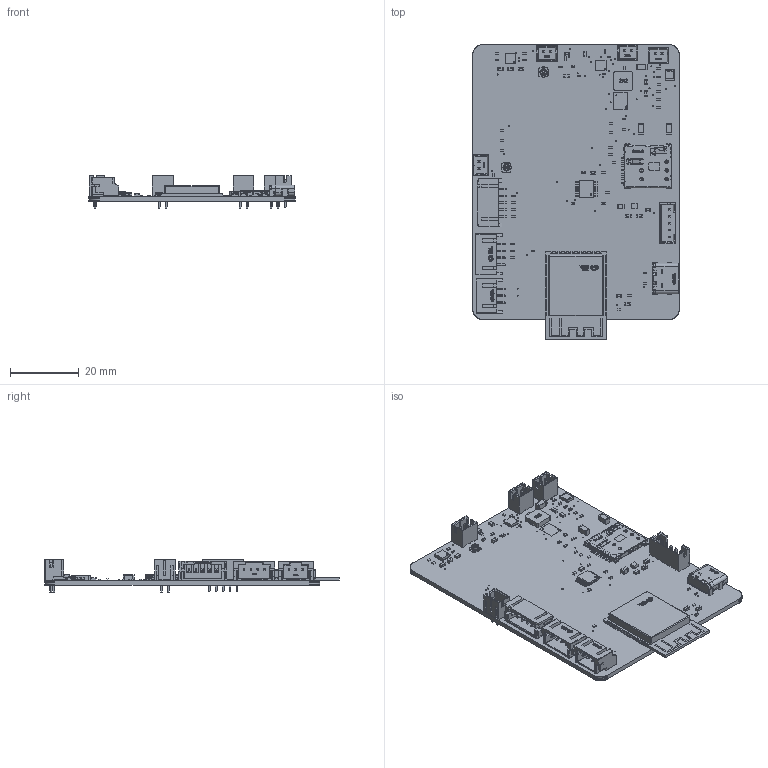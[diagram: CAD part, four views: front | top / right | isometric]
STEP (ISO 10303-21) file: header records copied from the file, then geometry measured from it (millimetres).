
FILE_DESCRIPTION(('Open CASCADE Model'),'2;1');
FILE_NAME('Open CASCADE Shape Model','2026-09-04T20:18:13',('Author'),( 'Open CASCADE'),'Open CASCADE STEP processor 7.7','Open CASCADE 7.7' ,'Unknown');
FILE_SCHEMA(('AUTOMOTIVE_DESIGN { 1 0 10303 214 1 1 1 1 }'));
Length unit declared in the file: millimetre
Products named in the file (1710): Open CASCADE STEP translator 7.7 1; Open CASCADE STEP translator 7.7 1.1; Open CASCADE STEP translator 7.7 1.2; Open CASCADE STEP translator 7.7 1.3; Open CASCADE STEP translator 7.7 1.4; Open CASCADE STEP translator 7.7 1.5; Open CASCADE STEP translator 7.7 1.5.1; Open CASCADE STEP translator 7.7 1.5.1.1; Open CASCADE STEP translator 7.7 1.5.1.2; Open CASCADE STEP translator 7.7 1.5.1.3; Open CASCADE STEP translator 7.7 1.5.1.4; Open CASCADE STEP translator 7.7 1.5.1.5; Open CASCADE STEP translator 7.7 1.5.1.6; Open CASCADE STEP translator 7.7 1.5.1.7; Open CASCADE STEP translator 7.7 1.5.1.8; Open CASCADE STEP translator 7.7 1.5.1.9; Open CASCADE STEP translator 7.7 1.5.1.10; Open CASCADE STEP translator 7.7 1.5.1.11; Open CASCADE STEP translator 7.7 1.5.1.12; Open CASCADE STEP translator 7.7 1.5.1.13; Open CASCADE STEP translator 7.7 1.5.1.14; Open CASCADE STEP translator 7.7 1.6; Open CASCADE STEP translator 7.7 1.7; Open CASCADE STEP translator 7.7 1.8; Open CASCADE STEP translator 7.7 1.9; Open CASCADE STEP translator 7.7 1.10; Open CASCADE STEP translator 7.7 1.10.1; Open CASCADE STEP translator 7.7 1.10.1.1; Open CASCADE STEP translator 7.7 1.10.1.2; Open CASCADE STEP translator 7.7 1.10.1.3; Open CASCADE STEP translator 7.7 1.10.1.4; Open CASCADE STEP translator 7.7 1.10.1.5; Open CASCADE STEP translator 7.7 1.10.1.6; Open CASCADE STEP translator 7.7 1.10.1.7; Open CASCADE STEP translator 7.7 1.10.1.8; Open CASCADE STEP translator 7.7 1.10.1.9; Open CASCADE STEP translator 7.7 1.10.1.10; Open CASCADE STEP translator 7.7 1.10.1.11; Open CASCADE STEP translator 7.7 1.10.1.12; Open CASCADE STEP translator 7.7 1.10.1.13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
Assembly tree (1709 placements, depth 5):
  Open CASCADE STEP translator 7.7 1
    Open CASCADE STEP translator 7.7 1.1
    Open CASCADE STEP translator 7.7 1.2
    Open CASCADE STEP translator 7.7 1.3
    Open CASCADE STEP translator 7.7 1.4
    Open CASCADE STEP translator 7.7 1.5
      Open CASCADE STEP translator 7.7 1.5.1
        Open CASCADE STEP translator 7.7 1.5.1.1
        Open CASCADE STEP translator 7.7 1.5.1.2
        Open CASCADE STEP translator 7.7 1.5.1.3
        Open CASCADE STEP translator 7.7 1.5.1.4
        Open CASCADE STEP translator 7.7 1.5.1.5
        Open CASCADE STEP translator 7.7 1.5.1.6
        Open CASCADE STEP translator 7.7 1.5.1.7
        Open CASCADE STEP translator 7.7 1.5.1.8
        Open CASCADE STEP translator 7.7 1.5.1.9
        Open CASCADE STEP translator 7.7 1.5.1.10
        Open CASCADE STEP translator 7.7 1.5.1.11
        Open CASCADE STEP translator 7.7 1.5.1.12
        Open CASCADE STEP translator 7.7 1.5.1.13
        Open CASCADE STEP translator 7.7 1.5.1.14
    Open CASCADE STEP translator 7.7 1.6
    Open CASCADE STEP translator 7.7 1.7
    Open CASCADE STEP translator 7.7 1.8
    Open CASCADE STEP translator 7.7 1.9
    Open CASCADE STEP translator 7.7 1.10
      Open CASCADE STEP translator 7.7 1.10.1
        Open CASCADE STEP translator 7.7 1.10.1.1
        Open CASCADE STEP translator 7.7 1.10.1.2
        Open CASCADE STEP translator 7.7 1.10.1.3
        Open CASCADE STEP translator 7.7 1.10.1.4
        Open CASCADE STEP translator 7.7 1.10.1.5
        Open CASCADE STEP translator 7.7 1.10.1.6
        Open CASCADE STEP translator 7.7 1.10.1.7
        Open CASCADE STEP translator 7.7 1.10.1.8
        Open CASCADE STEP translator 7.7 1.10.1.9
        Open CASCADE STEP translator 7.7 1.10.1.10
        Open CASCADE STEP translator 7.7 1.10.1.11
        Open CASCADE STEP translator 7.7 1.10.1.12
        Open CASCADE STEP translator 7.7 1.10.1.13
        Open CASCADE STEP translator 7.7 1.10.1.14
    Open CASCADE STEP translator 7.7 1.11
    Open CASCADE STEP translator 7.7 1.12
    Open CASCADE STEP translator 7.7 1.13
    Open CASCADE STEP translator 7.7 1.14
    Open CASCADE STEP translator 7.7 1.15
    Open CASCADE STEP translator 7.7 1.16
      Open CASCADE STEP translator 7.7 1.16.1
        Open CASCADE STEP translator 7.7 1.16.1.1
        Open CASCADE STEP translator 7.7 1.16.1.2
        Open CASCADE STEP translator 7.7 1.16.1.3
        Open CASCADE STEP translator 7.7 1.16.1.4
        Open CASCADE STEP translator 7.7 1.16.1.5
        Open CASCADE STEP translator 7.7 1.16.1.6
        Open CASCADE STEP translator 7.7 1.16.1.7
        Open CASCADE STEP translator 7.7 1.16.1.8
        Open CASCADE STEP translator 7.7 1.16.1.9
        Open CASCADE STEP translator 7.7 1.16.1.10
        Open CASCADE STEP translator 7.7 1.16.1.11
        Open CASCADE STEP translator 7.7 1.16.1.12
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Bounding box: 60 x 85.75 x 9.5 mm (x, y, z)
Volume: 8712 mm3; surface area: 17613.3 mm2
Topology: 306 solids, 1671 shells, 11866 faces, 36585 edges, 26722 vertices
Faces by surface type: plane 8028, cylinder 2200, bspline 1534, torus 46, cone 30, sphere 28
Full cylindrical faces by diameter (mm): 0.3 x61, 0.375 x1, 0.5 x1, 0.6 x4, 0.75 x4, 0.813 x5, 0.9 x8, 1 x16, 1.5 x6
Entity records: 929512 total; most frequent: CARTESIAN_POINT 255714, DIRECTION 112595, LINE 77014, VECTOR 77014, ORIENTED_EDGE 64061, PCURVE 64061, DEFINITIONAL_REPRESENTATION 64061, EDGE_CURVE 36541
